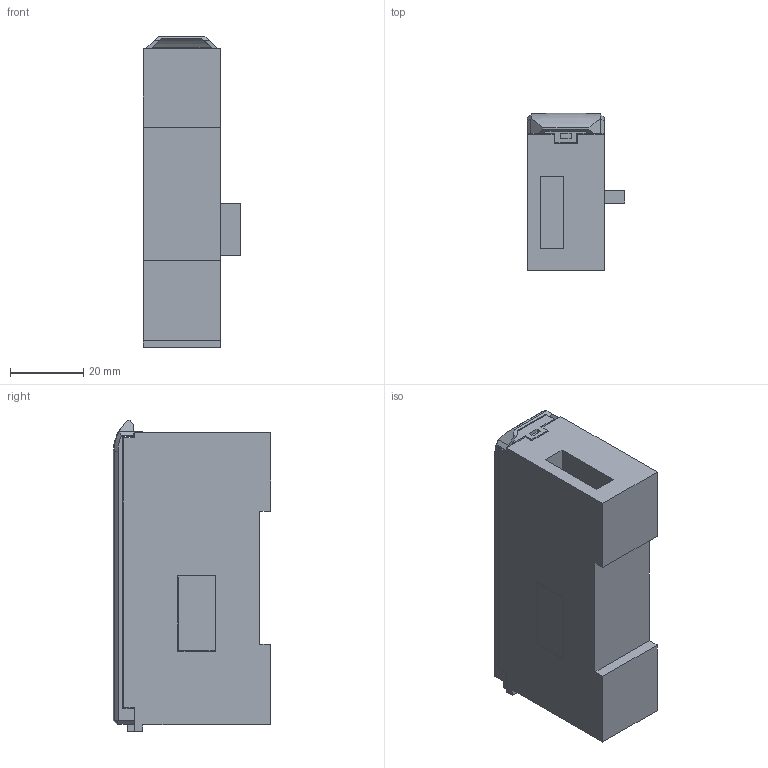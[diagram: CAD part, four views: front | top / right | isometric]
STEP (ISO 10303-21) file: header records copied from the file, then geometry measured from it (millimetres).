
FILE_DESCRIPTION (( 'STEP AP203' ), '1' );
FILE_NAME ('hg-sc113.STEP', '2015-10-02T11:40:27', ( '' ), ( '' ), 'SwSTEP 2.0', 'SolidWorks 2010', '' );
FILE_SCHEMA (( 'CONFIG_CONTROL_DESIGN' ));
Length unit declared in the file: millimetre
Products named in the file (4): hg-sc113; hg-sc1_cap; hg-sc1_cover
Assembly tree (3 placements, depth 2):
  hg-sc113
    hg-sc1_cap
    hg-sc113
    hg-sc1_cover
Bounding box: 26.7 x 43.07 x 85.3 mm (x, y, z)
Volume: 65710.5 mm3; surface area: 17769.5 mm2
Topology: 3 solids, 3 shells, 189 faces, 488 edges, 322 vertices
Faces by surface type: plane 181, torus 3, cylinder 2, bspline 2, cone 1
Entity records: 6101 total; most frequent: CARTESIAN_POINT 1102, ORIENTED_EDGE 976, DIRECTION 863, EDGE_CURVE 488, LINE 461, VECTOR 461, VERTEX_POINT 322, EDGE_LOOP 208
